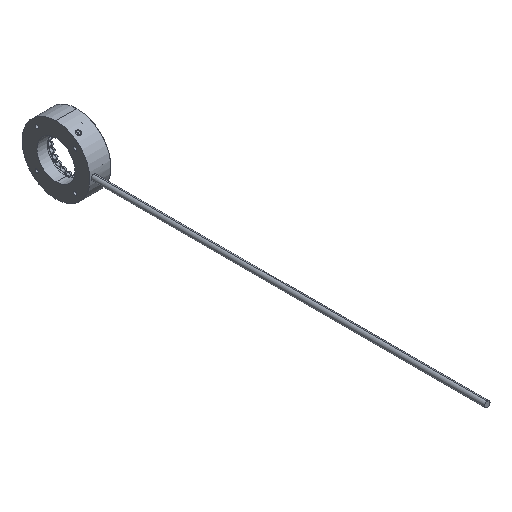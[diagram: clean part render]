
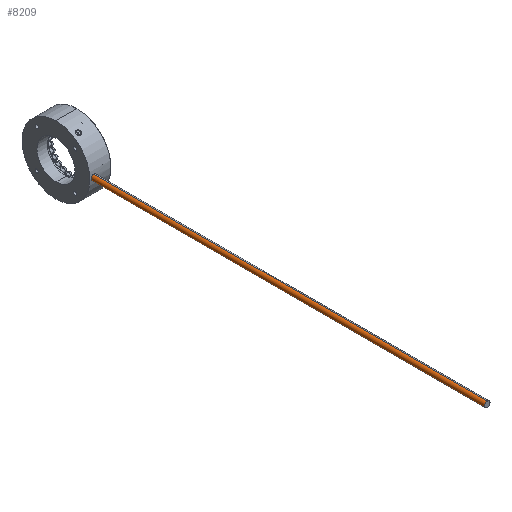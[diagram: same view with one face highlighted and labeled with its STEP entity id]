
A CAD part, isometric view. The second image highlights one B-rep face of the part: STEP entity #8209.
In plain terms, the highlighted cylindrical face has radius 2 mm (diameter 4 mm), a partial arc.
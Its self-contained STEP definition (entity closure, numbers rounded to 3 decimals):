
#11 = CARTESIAN_POINT ( 'NONE',  ( 3., -24.92, 2. ) ) ;
#12 = CARTESIAN_POINT ( 'NONE',  ( 3., -24.92, -2. ) ) ;
#14 = CARTESIAN_POINT ( 'NONE',  ( 3., -315., -2. ) ) ;
#40 = CARTESIAN_POINT ( 'NONE',  ( 3., -315., 2. ) ) ;
#1492 = CARTESIAN_POINT ( 'NONE',  ( 3., -24.92, -2. ) ) ;
#1493 = CARTESIAN_POINT ( 'NONE',  ( 2.868, -24.92, -2. ) ) ;
#1494 = CARTESIAN_POINT ( 'NONE',  ( 2.736, -24.921, -1.987 ) ) ;
#1495 = CARTESIAN_POINT ( 'NONE',  ( 2.479, -24.925, -1.935 ) ) ;
#1496 = CARTESIAN_POINT ( 'NONE',  ( 2.355, -24.928, -1.898 ) ) ;
#1497 = CARTESIAN_POINT ( 'NONE',  ( 2.112, -24.935, -1.797 ) ) ;
#1498 = CARTESIAN_POINT ( 'NONE',  ( 1.996, -24.94, -1.734 ) ) ;
#1499 = CARTESIAN_POINT ( 'NONE',  ( 1.779, -24.95, -1.589 ) ) ;
#1500 = CARTESIAN_POINT ( 'NONE',  ( 1.678, -24.955, -1.507 ) ) ;
#1501 = CARTESIAN_POINT ( 'NONE',  ( 1.492, -24.965, -1.32 ) ) ;
#1502 = CARTESIAN_POINT ( 'NONE',  ( 1.409, -24.971, -1.219 ) ) ;
#1503 = CARTESIAN_POINT ( 'NONE',  ( 1.264, -24.98, -1.002 ) ) ;
#1504 = CARTESIAN_POINT ( 'NONE',  ( 1.202, -24.985, -0.885 ) ) ;
#1505 = CARTESIAN_POINT ( 'NONE',  ( 1.102, -24.992, -0.643 ) ) ;
#1506 = CARTESIAN_POINT ( 'NONE',  ( 1.064, -24.995, -0.518 ) ) ;
#1507 = CARTESIAN_POINT ( 'NONE',  ( 1., -25., -0.129 ) ) ;
#1508 = CARTESIAN_POINT ( 'NONE',  ( 1.013, -24.999, -0.262 ) ) ;
#1509 = CARTESIAN_POINT ( 'NONE',  ( 1., -25., 0.262 ) ) ;
#1510 = CARTESIAN_POINT ( 'NONE',  ( 1.252, -24.981, 1.007 ) ) ;
#1511 = CARTESIAN_POINT ( 'NONE',  ( 1.053, -24.996, 0.526 ) ) ;
#1512 = CARTESIAN_POINT ( 'NONE',  ( 1.401, -24.97, 1.23 ) ) ;
#1513 = CARTESIAN_POINT ( 'NONE',  ( 1.678, -24.955, 1.506 ) ) ;
#1514 = CARTESIAN_POINT ( 'NONE',  ( 1.781, -24.949, 1.591 ) ) ;
#1515 = CARTESIAN_POINT ( 'NONE',  ( 1.998, -24.94, 1.736 ) ) ;
#1516 = CARTESIAN_POINT ( 'NONE',  ( 2.113, -24.935, 1.797 ) ) ;
#1517 = CARTESIAN_POINT ( 'NONE',  ( 2.355, -24.928, 1.898 ) ) ;
#1518 = CARTESIAN_POINT ( 'NONE',  ( 2.482, -24.925, 1.936 ) ) ;
#1519 = CARTESIAN_POINT ( 'NONE',  ( 3., -24.92, 2. ) ) ;
#1594 = CARTESIAN_POINT ( 'NONE',  ( 2.868, -24.92, 2. ) ) ;
#1595 = CARTESIAN_POINT ( 'NONE',  ( 2.738, -24.921, 1.987 ) ) ;
#1675 = DIRECTION ( 'NONE',  ( 0., 0., 1. ) ) ;
#1676 = DIRECTION ( 'NONE',  ( 0., -1., 0. ) ) ;
#1677 = CARTESIAN_POINT ( 'NONE',  ( 3., -315., 0. ) ) ;
#2633 = B_SPLINE_CURVE_WITH_KNOTS ( 'NONE', 3,
 ( #1519, #1594, #1595, #1518, #1517, #1516, #1515, #1514, #1513, #1512, #1510, #1511, #1509, #1507, #1508, #1506, #1505, #1504, #1503, #1502, #1501, #1500, #1499, #1498, #1497, #1496, #1495, #1494, #1493, #1492 ),
 .UNSPECIFIED., .F., .F.,
 ( 4, 2, 2, 2, 2, 2, 2, 2, 2, 2, 2, 2, 2, 2, 4 ),
 ( 0., 0., 0.001, 0.001, 0.002, 0.002, 0.003, 0.004, 0.004, 0.004, 0.005, 0.005, 0.005, 0.006, 0.006 ),
 .UNSPECIFIED. ) ;
#2898 = AXIS2_PLACEMENT_3D ( 'NONE', #1677, #1676, #1675 ) ;
#2997 = CIRCLE ( 'NONE', #2898, 2. ) ;
#6127 = EDGE_LOOP ( 'NONE', ( #23469, #22803, #23411, #23413 ) ) ;
#7702 = EDGE_CURVE ( 'NONE', #13820, #13794, #2997, .T. ) ;
#7713 = EDGE_CURVE ( 'NONE', #13791, #13792, #2633, .T. ) ;
#8209 = ADVANCED_FACE ( 'NONE', ( #10966 ), #10965, .T. ) ;
#9792 = EDGE_CURVE ( 'NONE', #13794, #13792, #21655, .T. ) ;
#9794 = EDGE_CURVE ( 'NONE', #13820, #13791, #21699, .T. ) ;
#10748 = AXIS2_PLACEMENT_3D ( 'NONE', #10967, #10977, #10978 ) ;
#10965 = CYLINDRICAL_SURFACE ( 'NONE', #10748, 2. ) ;
#10966 = FACE_OUTER_BOUND ( 'NONE', #6127, .T. ) ;
#10967 = CARTESIAN_POINT ( 'NONE',  ( 3., -315., 0. ) ) ;
#10977 = DIRECTION ( 'NONE',  ( 0., 1., 0. ) ) ;
#10978 = DIRECTION ( 'NONE',  ( 0., 0., 1. ) ) ;
#13791 = VERTEX_POINT ( 'NONE', #11 ) ;
#13792 = VERTEX_POINT ( 'NONE', #12 ) ;
#13794 = VERTEX_POINT ( 'NONE', #14 ) ;
#13820 = VERTEX_POINT ( 'NONE', #40 ) ;
#18571 = VECTOR ( 'NONE', #21669, 1000. ) ;
#18574 = VECTOR ( 'NONE', #21701, 1000. ) ;
#21655 = LINE ( 'NONE', #21656, #18571 ) ;
#21656 = CARTESIAN_POINT ( 'NONE',  ( 3., -315., -2. ) ) ;
#21669 = DIRECTION ( 'NONE',  ( 0., 1., 0. ) ) ;
#21699 = LINE ( 'NONE', #21700, #18574 ) ;
#21700 = CARTESIAN_POINT ( 'NONE',  ( 3., -315., 2. ) ) ;
#21701 = DIRECTION ( 'NONE',  ( 0., 1., 0. ) ) ;
#22803 = ORIENTED_EDGE ( 'NONE', *, *, #7702, .F. ) ;
#23411 = ORIENTED_EDGE ( 'NONE', *, *, #9794, .T. ) ;
#23413 = ORIENTED_EDGE ( 'NONE', *, *, #7713, .T. ) ;
#23469 = ORIENTED_EDGE ( 'NONE', *, *, #9792, .F. ) ;
